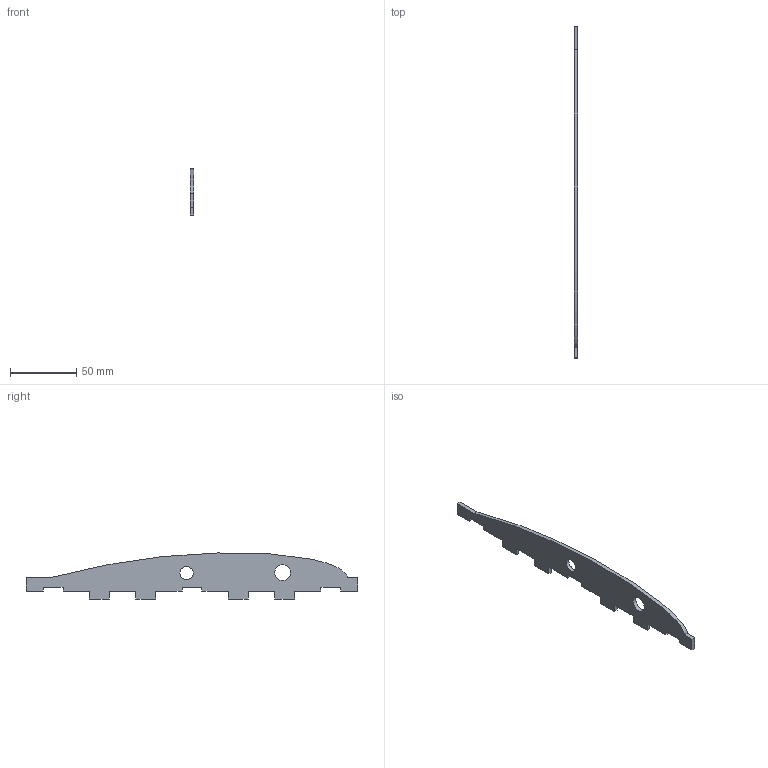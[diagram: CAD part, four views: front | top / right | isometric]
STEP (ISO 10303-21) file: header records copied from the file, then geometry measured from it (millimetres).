
FILE_DESCRIPTION(/* description */ (''),/* implementation_level */ '2;1');
FILE_NAME(/* name */ 'Wing Cap.step',/* time_stamp */ '2023-08-12T23:54:05+03:00',/* author */ (''),/* organization */ (''),/* preprocessor_version */ 'ST-DEVELOPER v20',/* originating_system */ 'Autodesk Translation Framework v12.9.0.99',/* authorisation */ '');
FILE_SCHEMA (('AUTOMOTIVE_DESIGN { 1 0 10303 214 3 1 1 }'));
Length unit declared in the file: millimetre
Products named in the file (1): wing_cap
Bounding box: 3 x 251 x 34.86 mm (x, y, z)
Volume: 16771.3 mm3; surface area: 13173.3 mm2
Topology: 1 solids, 1 shells, 38 faces, 110 edges, 74 vertices
Faces by surface type: plane 35, cylinder 2, bspline 1
Full cylindrical faces by diameter (mm): 10 x1, 12 x1
Entity records: 2460 total; most frequent: CARTESIAN_POINT 1422, ORIENTED_EDGE 220, DIRECTION 186, EDGE_CURVE 110, LINE 102, VECTOR 102, VERTEX_POINT 74, EDGE_LOOP 42
